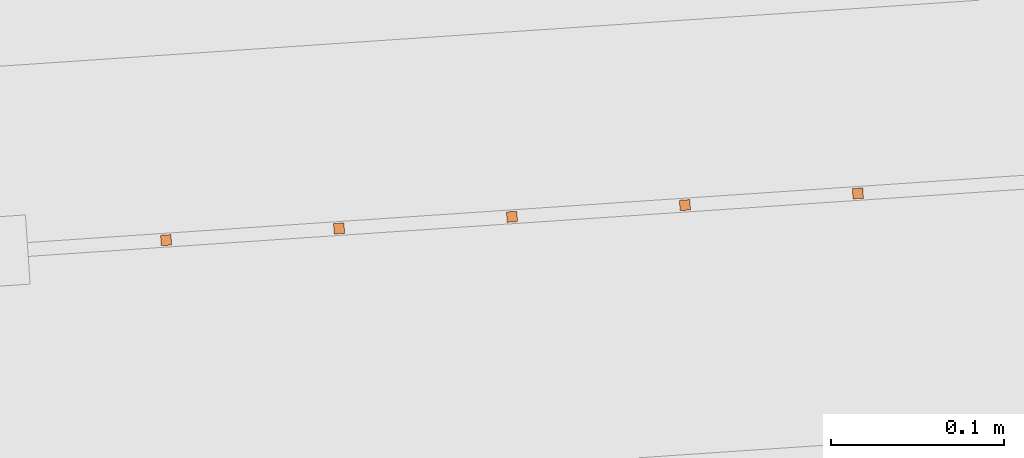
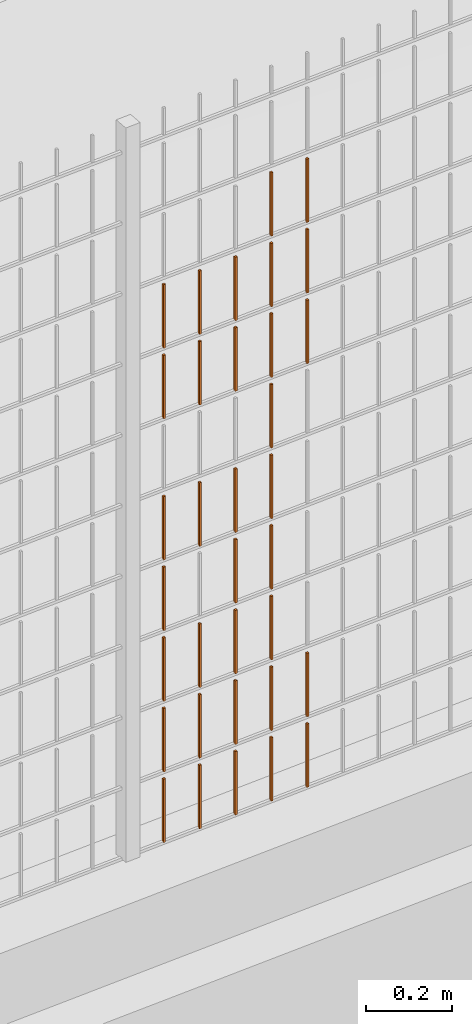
# One storey, part 313 of 1809: 34 proxies, 1 element without a shape of its own.
"""IFC2X3 building model written with IfcOpenShell, lengths in millimetres."""

from ifc_helpers import new_model, entity, si_unit, converted_unit, derived_unit, money_unit, direction, frame, origin_with_axes, place, context, subcontext, project, spatial, faceted_brep, source, transform, mapped, material, type_object, element, aggregate, save


model = new_model("IFC2X3")

# Units and contexts
model_context = context("Model", 3, precision=0.01, world=origin_with_axes(), true_north=direction((0.0, 1.0)))
body_context = subcontext(model_context, "Body", "Model", "MODEL_VIEW")
ifc_project = project(units=[si_unit("LENGTHUNIT", "METRE", prefix="MILLI"), si_unit("AREAUNIT", "SQUARE_METRE"), si_unit("VOLUMEUNIT", "CUBIC_METRE"), converted_unit("PLANEANGLEUNIT", "DEGREE", entity("IfcPlaneAngleMeasure", 0.0174532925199), si_unit("PLANEANGLEUNIT", "RADIAN"), dimensions=[0, 0, 0, 0, 0, 0, 0]), si_unit("SOLIDANGLEUNIT", "STERADIAN"), money_unit("EUR"), converted_unit("TIMEUNIT", "Year", entity("IfcTimeMeasure", 31556926.0), si_unit("TIMEUNIT", "SECOND"), dimensions=[0, 0, 1, 0, 0, 0, 0]), si_unit("MASSUNIT", "GRAM", prefix="KILO"), si_unit("THERMODYNAMICTEMPERATUREUNIT", "DEGREE_CELSIUS"), si_unit("LUMINOUSINTENSITYUNIT", "LUMEN"), si_unit("ENERGYUNIT", "JOULE", prefix="MEGA"), derived_unit("THERMALCONDUCTANCEUNIT", [(si_unit("POWERUNIT", "WATT"), 1), (si_unit("LENGTHUNIT", "METRE"), -1), (si_unit("THERMODYNAMICTEMPERATUREUNIT", "KELVIN"), -1)]), derived_unit("SPECIFICHEATCAPACITYUNIT", [(si_unit("ENERGYUNIT", "JOULE"), 1), (si_unit("MASSUNIT", "GRAM", prefix="KILO"), -1), (si_unit("THERMODYNAMICTEMPERATUREUNIT", "KELVIN"), -1)]), derived_unit("MASSDENSITYUNIT", [(si_unit("MASSUNIT", "GRAM", prefix="KILO"), 1), (si_unit("VOLUMEUNIT", "CUBIC_METRE"), -1)])], contexts=[model_context])

# Site, building, storey
site_placement = place(None, origin_with_axes())
site = spatial("IfcSite", under=ifc_project, at=site_placement, Name="Politse- ja Piirivalveameti ning Päästeameti ühishoone", CompositionType="ELEMENT")
building_placement = place(site_placement, origin_with_axes())
building = spatial("IfcBuilding", under=site, at=building_placement, Name="Politse- ja Piirivalveameti ning Päästeameti ühishoone", CompositionType="ELEMENT")
storey_placement = place(building_placement, origin_with_axes())
storey = spatial("IfcBuildingStorey", under=building, at=storey_placement, Name="Esimene korrus", CompositionType="ELEMENT", Elevation=0.0)

# Proxies
building_element_proxy_type_1 = type_object("IfcBuildingElementProxyType", Name="Railing Type", PredefinedType="NOTDEFINED")
proxy_1_placement = place(storey_placement, frame((89252.001212, -29183.4766571, 203.661247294), z_axis=(0.0, 0.0, 1.0), x_axis=(1.0, 0.0, 0.0)))
proxy_1 = element("IfcBuildingElementProxy", 1, at=proxy_1_placement, inside=storey, type_object=building_element_proxy_type_1, Name="PIIRDEAED")
ifc_material = material(Name="ET-03_Raud")
building_element_proxy_type_2 = type_object("IfcBuildingElementProxyType", Name="IfcBuildingElementProxy", PredefinedType="NOTDEFINED")
shared_shape_1 = source(origin_with_axes(), body_context, "Body", "Brep", [
    faceted_brep([(3.0, 3.0, -0.000752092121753), (-3.0, 3.0, -0.000752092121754), (-3.0, 3.0, 179.99926046), (3.0, 3.0, 179.99926046), (3.0, -3.0, 0.000752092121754), (-3.0, -3.0, 0.000752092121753), (-3.0, -3.0, 180.000764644), (3.0, -3.0, 180.000764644)], [[[0, 1, 2, 3]], [[0, 4, 5, 1]], [[1, 5, 6, 2]], [[3, 2, 6, 7]], [[4, 0, 3, 7]], [[5, 4, 7, 6]]]),
])
proxy_2_placement = place(proxy_1_placement, frame((-39436.8252394, -19961.5834773, 17.3251486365), z_axis=(0.0, 0.0, 1.0), x_axis=(1.0, 0.0, 0.0)))
proxy_2 = element("IfcBuildingElementProxy", 2, at=proxy_2_placement, type_object=building_element_proxy_type_2, material=ifc_material, Name="BALUSTER - 001", context=body_context, shape_type="MappedRepresentation", body=[
    mapped(shared_shape_1, transform((0.0, 0.0, 0.0), x_axis=(-0.0673926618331, 0.997726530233, 0.0), y_axis=(-0.997726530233, -0.0673926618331, 0.0), z_axis=(0.0, 0.0, 1.0))),
])
shared_shape_2 = source(origin_with_axes(), body_context, "Body", "Brep", [
    faceted_brep([(3.0, 3.0, -0.000752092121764), (-3.0, 3.0, -0.000752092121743), (-3.0, 3.0, 179.99926046), (3.0, 3.0, 179.99926046), (3.0, -3.0, 0.000752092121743), (-3.0, -3.0, 0.000752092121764), (-3.0, -3.0, 180.000764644), (3.0, -3.0, 180.000764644)], [[[0, 1, 2, 3]], [[0, 4, 5, 1]], [[1, 5, 6, 2]], [[3, 2, 6, 7]], [[4, 0, 3, 7]], [[5, 4, 7, 6]]]),
])
proxy_3_placement = place(proxy_1_placement, frame((-39536.5978924, -19968.3227435, 17.3000788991), z_axis=(0.0, 0.0, 1.0), x_axis=(1.0, 0.0, 0.0)))
proxy_3 = element("IfcBuildingElementProxy", 3, at=proxy_3_placement, type_object=building_element_proxy_type_2, material=ifc_material, Name="BALUSTER - 001", context=body_context, shape_type="MappedRepresentation", body=[
    mapped(shared_shape_2, transform((0.0, 0.0, 0.0), x_axis=(-0.0673926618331, 0.997726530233, 0.0), y_axis=(-0.997726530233, -0.0673926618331, 0.0), z_axis=(0.0, 0.0, 1.0))),
])
shared_shape_3 = source(origin_with_axes(), body_context, "Body", "Brep", [
    faceted_brep([(3.0, 3.0, -0.000752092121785), (-3.0, 3.0, -0.000752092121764), (-3.0, 3.0, 179.99926046), (3.0, 3.0, 179.99926046), (3.0, -3.0, 0.000752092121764), (-3.0, -3.0, 0.000752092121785), (-3.0, -3.0, 180.000764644), (3.0, -3.0, 180.000764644)], [[[0, 1, 2, 3]], [[0, 4, 5, 1]], [[1, 5, 6, 2]], [[3, 2, 6, 7]], [[4, 0, 3, 7]], [[5, 4, 7, 6]]]),
])
proxy_4_placement = place(proxy_1_placement, frame((-39636.3705454, -19975.0620097, 17.2750091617), z_axis=(0.0, 0.0, 1.0), x_axis=(1.0, 0.0, 0.0)))
proxy_4 = element("IfcBuildingElementProxy", 4, at=proxy_4_placement, type_object=building_element_proxy_type_2, material=ifc_material, Name="BALUSTER - 001", context=body_context, shape_type="MappedRepresentation", body=[
    mapped(shared_shape_3, transform((0.0, 0.0, 0.0), x_axis=(-0.0673926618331, 0.997726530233, 0.0), y_axis=(-0.997726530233, -0.0673926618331, 0.0), z_axis=(0.0, 0.0, 1.0))),
])
shared_shape_4 = source(origin_with_axes(), body_context, "Body", "Brep", [
    faceted_brep([(3.0, 3.0, -0.000752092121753), (-3.0, 3.0, -0.000752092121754), (-3.0, 3.0, 179.99926046), (3.0, 3.0, 179.99926046), (3.0, -3.0, 0.000752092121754), (-3.0, -3.0, 0.000752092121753), (-3.0, -3.0, 180.000764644), (3.0, -3.0, 180.000764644)], [[[0, 1, 2, 3]], [[0, 4, 5, 1]], [[1, 5, 6, 2]], [[3, 2, 6, 7]], [[4, 0, 3, 7]], [[5, 4, 7, 6]]]),
])
proxy_5_placement = place(proxy_1_placement, frame((-39436.8252394, -19961.5834773, 217.325148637), z_axis=(0.0, 0.0, 1.0), x_axis=(1.0, 0.0, 0.0)))
proxy_5 = element("IfcBuildingElementProxy", 5, at=proxy_5_placement, type_object=building_element_proxy_type_2, material=ifc_material, Name="BALUSTER - 001", context=body_context, shape_type="MappedRepresentation", body=[
    mapped(shared_shape_4, transform((0.0, 0.0, 0.0), x_axis=(-0.0673926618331, 0.997726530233, 0.0), y_axis=(-0.997726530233, -0.0673926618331, 0.0), z_axis=(0.0, 0.0, 1.0))),
])
proxy_6_placement = place(proxy_1_placement, frame((-39436.8252394, -19961.5834773, 417.325148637), z_axis=(0.0, 0.0, 1.0), x_axis=(1.0, 0.0, 0.0)))
proxy_6 = element("IfcBuildingElementProxy", 6, at=proxy_6_placement, type_object=building_element_proxy_type_2, material=ifc_material, Name="BALUSTER - 001", context=body_context, shape_type="MappedRepresentation", body=[
    mapped(shared_shape_4, transform((0.0, 0.0, 0.0), x_axis=(-0.0673926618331, 0.997726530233, 0.0), y_axis=(-0.997726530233, -0.0673926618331, 0.0), z_axis=(0.0, 0.0, 1.0))),
])
shared_shape_5 = source(origin_with_axes(), body_context, "Body", "Brep", [
    faceted_brep([(3.0, 3.0, -0.000752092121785), (-3.0, 3.0, -0.000752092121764), (-3.0, 3.0, 179.99926046), (3.0, 3.0, 179.99926046), (3.0, -3.0, 0.000752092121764), (-3.0, -3.0, 0.000752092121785), (-3.0, -3.0, 180.000764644), (3.0, -3.0, 180.000764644)], [[[0, 1, 2, 3]], [[0, 4, 5, 1]], [[1, 5, 6, 2]], [[3, 2, 6, 7]], [[4, 0, 3, 7]], [[5, 4, 7, 6]]]),
])
proxy_7_placement = place(proxy_1_placement, frame((-39636.3705454, -19975.0620097, 217.275009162), z_axis=(0.0, 0.0, 1.0), x_axis=(1.0, 0.0, 0.0)))
proxy_7 = element("IfcBuildingElementProxy", 7, at=proxy_7_placement, type_object=building_element_proxy_type_2, material=ifc_material, Name="BALUSTER - 001", context=body_context, shape_type="MappedRepresentation", body=[
    mapped(shared_shape_5, transform((0.0, 0.0, 0.0), x_axis=(-0.0673926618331, 0.997726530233, 0.0), y_axis=(-0.997726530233, -0.0673926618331, 0.0), z_axis=(0.0, 0.0, 1.0))),
])
proxy_8_placement = place(proxy_1_placement, frame((-39636.3705454, -19975.0620097, 417.275009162), z_axis=(0.0, 0.0, 1.0), x_axis=(1.0, 0.0, 0.0)))
proxy_8 = element("IfcBuildingElementProxy", 8, at=proxy_8_placement, type_object=building_element_proxy_type_2, material=ifc_material, Name="BALUSTER - 001", context=body_context, shape_type="MappedRepresentation", body=[
    mapped(shared_shape_5, transform((0.0, 0.0, 0.0), x_axis=(-0.0673926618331, 0.997726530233, 0.0), y_axis=(-0.997726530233, -0.0673926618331, 0.0), z_axis=(0.0, 0.0, 1.0))),
])
shared_shape_6 = source(origin_with_axes(), body_context, "Body", "Brep", [
    faceted_brep([(3.0, 3.0, -0.000752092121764), (-3.0, 3.0, -0.000752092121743), (-3.0, 3.0, 179.99926046), (3.0, 3.0, 179.99926046), (3.0, -3.0, 0.000752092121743), (-3.0, -3.0, 0.000752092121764), (-3.0, -3.0, 180.000764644), (3.0, -3.0, 180.000764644)], [[[0, 1, 2, 3]], [[0, 4, 5, 1]], [[1, 5, 6, 2]], [[3, 2, 6, 7]], [[4, 0, 3, 7]], [[5, 4, 7, 6]]]),
])
proxy_9_placement = place(proxy_1_placement, frame((-39536.5978924, -19968.3227435, 217.300078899), z_axis=(0.0, 0.0, 1.0), x_axis=(1.0, 0.0, 0.0)))
proxy_9 = element("IfcBuildingElementProxy", 9, at=proxy_9_placement, type_object=building_element_proxy_type_2, material=ifc_material, Name="BALUSTER - 001", context=body_context, shape_type="MappedRepresentation", body=[
    mapped(shared_shape_6, transform((0.0, 0.0, 0.0), x_axis=(-0.0673926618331, 0.997726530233, 0.0), y_axis=(-0.997726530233, -0.0673926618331, 0.0), z_axis=(0.0, 0.0, 1.0))),
])
shared_shape_7 = source(origin_with_axes(), body_context, "Body", "Brep", [
    faceted_brep([(3.0, 3.0, -0.000752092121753), (-3.0, 3.0, -0.000752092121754), (-3.0, 3.0, 179.99926046), (3.0, 3.0, 179.99926046), (3.0, -3.0, 0.000752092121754), (-3.0, -3.0, 0.000752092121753), (-3.0, -3.0, 180.000764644), (3.0, -3.0, 180.000764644)], [[[0, 1, 2, 3]], [[0, 4, 5, 1]], [[1, 5, 6, 2]], [[3, 2, 6, 7]], [[4, 0, 3, 7]], [[5, 4, 7, 6]]]),
])
proxy_10_placement = place(proxy_1_placement, frame((-39436.8252394, -19961.5834773, 817.325148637), z_axis=(0.0, 0.0, 1.0), x_axis=(1.0, 0.0, 0.0)))
proxy_10 = element("IfcBuildingElementProxy", 10, at=proxy_10_placement, type_object=building_element_proxy_type_2, material=ifc_material, Name="BALUSTER - 001", context=body_context, shape_type="MappedRepresentation", body=[
    mapped(shared_shape_7, transform((0.0, 0.0, 0.0), x_axis=(-0.0673926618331, 0.997726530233, 0.0), y_axis=(-0.997726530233, -0.0673926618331, 0.0), z_axis=(0.0, 0.0, 1.0))),
])
shared_shape_8 = source(origin_with_axes(), body_context, "Body", "Brep", [
    faceted_brep([(3.0, 3.0, -0.000752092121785), (-3.0, 3.0, -0.000752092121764), (-3.0, 3.0, 179.99926046), (3.0, 3.0, 179.99926046), (3.0, -3.0, 0.000752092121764), (-3.0, -3.0, 0.000752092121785), (-3.0, -3.0, 180.000764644), (3.0, -3.0, 180.000764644)], [[[0, 1, 2, 3]], [[0, 4, 5, 1]], [[1, 5, 6, 2]], [[3, 2, 6, 7]], [[4, 0, 3, 7]], [[5, 4, 7, 6]]]),
])
proxy_11_placement = place(proxy_1_placement, frame((-39636.3705454, -19975.0620097, 617.275009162), z_axis=(0.0, 0.0, 1.0), x_axis=(1.0, 0.0, 0.0)))
proxy_11 = element("IfcBuildingElementProxy", 11, at=proxy_11_placement, type_object=building_element_proxy_type_2, material=ifc_material, Name="BALUSTER - 001", context=body_context, shape_type="MappedRepresentation", body=[
    mapped(shared_shape_8, transform((0.0, 0.0, 0.0), x_axis=(-0.0673926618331, 0.997726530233, 0.0), y_axis=(-0.997726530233, -0.0673926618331, 0.0), z_axis=(0.0, 0.0, 1.0))),
])
shared_shape_9 = source(origin_with_axes(), body_context, "Body", "Brep", [
    faceted_brep([(3.0, 3.0, -0.000752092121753), (-3.0, 3.0, -0.000752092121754), (-3.0, 3.0, 179.99926046), (3.0, 3.0, 179.99926046), (3.0, -3.0, 0.000752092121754), (-3.0, -3.0, 0.000752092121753), (-3.0, -3.0, 180.000764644), (3.0, -3.0, 180.000764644)], [[[0, 1, 2, 3]], [[0, 4, 5, 1]], [[1, 5, 6, 2]], [[3, 2, 6, 7]], [[4, 0, 3, 7]], [[5, 4, 7, 6]]]),
])
proxy_12_placement = place(proxy_1_placement, frame((-39436.8252394, -19961.5834773, 617.325148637), z_axis=(0.0, 0.0, 1.0), x_axis=(1.0, 0.0, 0.0)))
proxy_12 = element("IfcBuildingElementProxy", 12, at=proxy_12_placement, type_object=building_element_proxy_type_2, material=ifc_material, Name="BALUSTER - 001", context=body_context, shape_type="MappedRepresentation", body=[
    mapped(shared_shape_9, transform((0.0, 0.0, 0.0), x_axis=(-0.0673926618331, 0.997726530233, 0.0), y_axis=(-0.997726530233, -0.0673926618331, 0.0), z_axis=(0.0, 0.0, 1.0))),
])
shared_shape_10 = source(origin_with_axes(), body_context, "Body", "Brep", [
    faceted_brep([(3.0, 3.0, -0.000752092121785), (-3.0, 3.0, -0.000752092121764), (-3.0, 3.0, 179.99926046), (3.0, 3.0, 179.99926046), (3.0, -3.0, 0.000752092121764), (-3.0, -3.0, 0.000752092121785), (-3.0, -3.0, 180.000764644), (3.0, -3.0, 180.000764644)], [[[0, 1, 2, 3]], [[0, 4, 5, 1]], [[1, 5, 6, 2]], [[3, 2, 6, 7]], [[4, 0, 3, 7]], [[5, 4, 7, 6]]]),
])
proxy_13_placement = place(proxy_1_placement, frame((-39636.3705454, -19975.0620097, 817.275009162), z_axis=(0.0, 0.0, 1.0), x_axis=(1.0, 0.0, 0.0)))
proxy_13 = element("IfcBuildingElementProxy", 13, at=proxy_13_placement, type_object=building_element_proxy_type_2, material=ifc_material, Name="BALUSTER - 001", context=body_context, shape_type="MappedRepresentation", body=[
    mapped(shared_shape_10, transform((0.0, 0.0, 0.0), x_axis=(-0.0673926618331, 0.997726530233, 0.0), y_axis=(-0.997726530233, -0.0673926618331, 0.0), z_axis=(0.0, 0.0, 1.0))),
])
proxy_14_placement = place(proxy_1_placement, frame((-39636.3705454, -19975.0620097, 1217.27500916), z_axis=(0.0, 0.0, 1.0), x_axis=(1.0, 0.0, 0.0)))
proxy_14 = element("IfcBuildingElementProxy", 14, at=proxy_14_placement, type_object=building_element_proxy_type_2, material=ifc_material, Name="BALUSTER - 001", context=body_context, shape_type="MappedRepresentation", body=[
    mapped(shared_shape_10, transform((0.0, 0.0, 0.0), x_axis=(-0.0673926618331, 0.997726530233, 0.0), y_axis=(-0.997726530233, -0.0673926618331, 0.0), z_axis=(0.0, 0.0, 1.0))),
])
shared_shape_11 = source(origin_with_axes(), body_context, "Body", "Brep", [
    faceted_brep([(3.0, 3.0, -0.000752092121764), (-3.0, 3.0, -0.000752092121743), (-3.0, 3.0, 179.99926046), (3.0, 3.0, 179.99926046), (3.0, -3.0, 0.000752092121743), (-3.0, -3.0, 0.000752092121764), (-3.0, -3.0, 180.000764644), (3.0, -3.0, 180.000764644)], [[[0, 1, 2, 3]], [[0, 4, 5, 1]], [[1, 5, 6, 2]], [[3, 2, 6, 7]], [[4, 0, 3, 7]], [[5, 4, 7, 6]]]),
])
proxy_15_placement = place(proxy_1_placement, frame((-39536.5978924, -19968.3227435, 817.300078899), z_axis=(0.0, 0.0, 1.0), x_axis=(1.0, 0.0, 0.0)))
proxy_15 = element("IfcBuildingElementProxy", 15, at=proxy_15_placement, type_object=building_element_proxy_type_2, material=ifc_material, Name="BALUSTER - 001", context=body_context, shape_type="MappedRepresentation", body=[
    mapped(shared_shape_11, transform((0.0, 0.0, 0.0), x_axis=(-0.0673926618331, 0.997726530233, 0.0), y_axis=(-0.997726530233, -0.0673926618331, 0.0), z_axis=(0.0, 0.0, 1.0))),
])
proxy_16_placement = place(proxy_1_placement, frame((-39536.5978924, -19968.3227435, 1217.3000789), z_axis=(0.0, 0.0, 1.0), x_axis=(1.0, 0.0, 0.0)))
proxy_16 = element("IfcBuildingElementProxy", 16, at=proxy_16_placement, type_object=building_element_proxy_type_2, material=ifc_material, Name="BALUSTER - 001", context=body_context, shape_type="MappedRepresentation", body=[
    mapped(shared_shape_11, transform((0.0, 0.0, 0.0), x_axis=(-0.0673926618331, 0.997726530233, 0.0), y_axis=(-0.997726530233, -0.0673926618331, 0.0), z_axis=(0.0, 0.0, 1.0))),
])
shared_shape_12 = source(origin_with_axes(), body_context, "Body", "Brep", [
    faceted_brep([(3.0, 3.0, -0.000752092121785), (-3.0, 3.0, -0.000752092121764), (-3.0, 3.0, 179.99926046), (3.0, 3.0, 179.99926046), (3.0, -3.0, 0.000752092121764), (-3.0, -3.0, 0.000752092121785), (-3.0, -3.0, 180.000764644), (3.0, -3.0, 180.000764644)], [[[0, 1, 2, 3]], [[0, 4, 5, 1]], [[1, 5, 6, 2]], [[3, 2, 6, 7]], [[4, 0, 3, 7]], [[5, 4, 7, 6]]]),
])
proxy_17_placement = place(proxy_1_placement, frame((-39636.3705454, -19975.0620097, 1417.27500916), z_axis=(0.0, 0.0, 1.0), x_axis=(1.0, 0.0, 0.0)))
proxy_17 = element("IfcBuildingElementProxy", 17, at=proxy_17_placement, type_object=building_element_proxy_type_2, material=ifc_material, Name="BALUSTER - 001", context=body_context, shape_type="MappedRepresentation", body=[
    mapped(shared_shape_12, transform((0.0, 0.0, 0.0), x_axis=(-0.0673926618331, 0.997726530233, 0.0), y_axis=(-0.997726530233, -0.0673926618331, 0.0), z_axis=(0.0, 0.0, 1.0))),
])
shared_shape_13 = source(origin_with_axes(), body_context, "Body", "Brep", [
    faceted_brep([(3.0, 3.0, -0.000752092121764), (-3.0, 3.0, -0.000752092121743), (-3.0, 3.0, 179.99926046), (3.0, 3.0, 179.99926046), (3.0, -3.0, 0.000752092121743), (-3.0, -3.0, 0.000752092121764), (-3.0, -3.0, 180.000764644), (3.0, -3.0, 180.000764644)], [[[0, 1, 2, 3]], [[0, 4, 5, 1]], [[1, 5, 6, 2]], [[3, 2, 6, 7]], [[4, 0, 3, 7]], [[5, 4, 7, 6]]]),
])
proxy_18_placement = place(proxy_1_placement, frame((-39536.5978924, -19968.3227435, 417.300078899), z_axis=(0.0, 0.0, 1.0), x_axis=(1.0, 0.0, 0.0)))
proxy_18 = element("IfcBuildingElementProxy", 18, at=proxy_18_placement, type_object=building_element_proxy_type_2, material=ifc_material, Name="BALUSTER - 001", context=body_context, shape_type="MappedRepresentation", body=[
    mapped(shared_shape_13, transform((0.0, 0.0, 0.0), x_axis=(-0.0673926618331, 0.997726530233, 0.0), y_axis=(-0.997726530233, -0.0673926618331, 0.0), z_axis=(0.0, 0.0, 1.0))),
])
shared_shape_14 = source(origin_with_axes(), body_context, "Body", "Brep", [
    faceted_brep([(3.0, 3.0, -0.000752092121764), (-3.0, 3.0, -0.000752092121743), (-3.0, 3.0, 179.99926046), (3.0, 3.0, 179.99926046), (3.0, -3.0, 0.000752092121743), (-3.0, -3.0, 0.000752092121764), (-3.0, -3.0, 180.000764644), (3.0, -3.0, 180.000764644)], [[[0, 1, 2, 3]], [[0, 4, 5, 1]], [[1, 5, 6, 2]], [[3, 2, 6, 7]], [[4, 0, 3, 7]], [[5, 4, 7, 6]]]),
])
proxy_19_placement = place(proxy_1_placement, frame((-39536.5978924, -19968.3227435, 1417.3000789), z_axis=(0.0, 0.0, 1.0), x_axis=(1.0, 0.0, 0.0)))
proxy_19 = element("IfcBuildingElementProxy", 19, at=proxy_19_placement, type_object=building_element_proxy_type_2, material=ifc_material, Name="BALUSTER - 001", context=body_context, shape_type="MappedRepresentation", body=[
    mapped(shared_shape_14, transform((0.0, 0.0, 0.0), x_axis=(-0.0673926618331, 0.997726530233, 0.0), y_axis=(-0.997726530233, -0.0673926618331, 0.0), z_axis=(0.0, 0.0, 1.0))),
])
shared_shape_15 = source(origin_with_axes(), body_context, "Body", "Brep", [
    faceted_brep([(3.0, 3.0, -0.000752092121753), (-3.0, 3.0, -0.000752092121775), (-3.0, 3.0, 179.99926046), (3.0, 3.0, 179.99926046), (3.0, -3.0, 0.000752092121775), (-3.0, -3.0, 0.000752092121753), (-3.0, -3.0, 180.000764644), (3.0, -3.0, 180.000764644)], [[[0, 1, 2, 3]], [[0, 4, 5, 1]], [[1, 5, 6, 2]], [[3, 2, 6, 7]], [[4, 0, 3, 7]], [[5, 4, 7, 6]]]),
])
proxy_20_placement = place(proxy_1_placement, frame((-39237.2799333, -19948.104945, 1417.37528811), z_axis=(0.0, 0.0, 1.0), x_axis=(1.0, 0.0, 0.0)))
proxy_20 = element("IfcBuildingElementProxy", 20, at=proxy_20_placement, type_object=building_element_proxy_type_2, material=ifc_material, Name="BALUSTER - 001", context=body_context, shape_type="MappedRepresentation", body=[
    mapped(shared_shape_15, transform((0.0, 0.0, 0.0), x_axis=(-0.0673926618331, 0.997726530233, 0.0), y_axis=(-0.997726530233, -0.0673926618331, 0.0), z_axis=(0.0, 0.0, 1.0))),
])
shared_shape_16 = source(origin_with_axes(), body_context, "Body", "Brep", [
    faceted_brep([(3.0, 3.0, -0.000752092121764), (-3.0, 3.0, -0.000752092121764), (-3.0, 3.0, 179.99926046), (3.0, 3.0, 179.99926046), (3.0, -3.0, 0.000752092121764), (-3.0, -3.0, 0.000752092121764), (-3.0, -3.0, 180.000764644), (3.0, -3.0, 180.000764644)], [[[0, 1, 2, 3]], [[0, 4, 5, 1]], [[1, 5, 6, 2]], [[3, 2, 6, 7]], [[4, 0, 3, 7]], [[5, 4, 7, 6]]]),
])
proxy_21_placement = place(proxy_1_placement, frame((-39337.0525864, -19954.8442111, 617.350218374), z_axis=(0.0, 0.0, 1.0), x_axis=(1.0, 0.0, 0.0)))
proxy_21 = element("IfcBuildingElementProxy", 21, at=proxy_21_placement, type_object=building_element_proxy_type_2, material=ifc_material, Name="BALUSTER - 001", context=body_context, shape_type="MappedRepresentation", body=[
    mapped(shared_shape_16, transform((0.0, 0.0, 0.0), x_axis=(-0.0673926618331, 0.997726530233, 0.0), y_axis=(-0.997726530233, -0.0673926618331, 0.0), z_axis=(0.0, 0.0, 1.0))),
])
shared_shape_17 = source(origin_with_axes(), body_context, "Body", "Brep", [
    faceted_brep([(3.0, 3.0, -0.000752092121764), (-3.0, 3.0, -0.000752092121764), (-3.0, 3.0, 179.99926046), (3.0, 3.0, 179.99926046), (3.0, -3.0, 0.000752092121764), (-3.0, -3.0, 0.000752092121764), (-3.0, -3.0, 180.000764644), (3.0, -3.0, 180.000764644)], [[[0, 1, 2, 3]], [[0, 4, 5, 1]], [[1, 5, 6, 2]], [[3, 2, 6, 7]], [[4, 0, 3, 7]], [[5, 4, 7, 6]]]),
])
proxy_22_placement = place(proxy_1_placement, frame((-39337.0525864, -19954.8442111, 417.350218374), z_axis=(0.0, 0.0, 1.0), x_axis=(1.0, 0.0, 0.0)))
proxy_22 = element("IfcBuildingElementProxy", 22, at=proxy_22_placement, type_object=building_element_proxy_type_2, material=ifc_material, Name="BALUSTER - 001", context=body_context, shape_type="MappedRepresentation", body=[
    mapped(shared_shape_17, transform((0.0, 0.0, 0.0), x_axis=(-0.0673926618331, 0.997726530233, 0.0), y_axis=(-0.997726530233, -0.0673926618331, 0.0), z_axis=(0.0, 0.0, 1.0))),
])
shared_shape_18 = source(origin_with_axes(), body_context, "Body", "Brep", [
    faceted_brep([(3.0, 3.0, -0.000752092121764), (-3.0, 3.0, -0.000752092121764), (-3.0, 3.0, 179.99926046), (3.0, 3.0, 179.99926046), (3.0, -3.0, 0.000752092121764), (-3.0, -3.0, 0.000752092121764), (-3.0, -3.0, 180.000764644), (3.0, -3.0, 180.000764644)], [[[0, 1, 2, 3]], [[0, 4, 5, 1]], [[1, 5, 6, 2]], [[3, 2, 6, 7]], [[4, 0, 3, 7]], [[5, 4, 7, 6]]]),
])
proxy_23_placement = place(proxy_1_placement, frame((-39337.0525864, -19954.8442111, 817.350218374), z_axis=(0.0, 0.0, 1.0), x_axis=(1.0, 0.0, 0.0)))
proxy_23 = element("IfcBuildingElementProxy", 23, at=proxy_23_placement, type_object=building_element_proxy_type_2, material=ifc_material, Name="BALUSTER - 001", context=body_context, shape_type="MappedRepresentation", body=[
    mapped(shared_shape_18, transform((0.0, 0.0, 0.0), x_axis=(-0.0673926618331, 0.997726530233, 0.0), y_axis=(-0.997726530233, -0.0673926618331, 0.0), z_axis=(0.0, 0.0, 1.0))),
])
shared_shape_19 = source(origin_with_axes(), body_context, "Body", "Brep", [
    faceted_brep([(3.0, 3.0, -0.000752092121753), (-3.0, 3.0, -0.000752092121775), (-3.0, 3.0, 179.99926046), (3.0, 3.0, 179.99926046), (3.0, -3.0, 0.000752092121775), (-3.0, -3.0, 0.000752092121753), (-3.0, -3.0, 180.000764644), (3.0, -3.0, 180.000764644)], [[[0, 1, 2, 3]], [[0, 4, 5, 1]], [[1, 5, 6, 2]], [[3, 2, 6, 7]], [[4, 0, 3, 7]], [[5, 4, 7, 6]]]),
])
proxy_24_placement = place(proxy_1_placement, frame((-39237.2799333, -19948.104945, 1617.37528811), z_axis=(0.0, 0.0, 1.0), x_axis=(1.0, 0.0, 0.0)))
proxy_24 = element("IfcBuildingElementProxy", 24, at=proxy_24_placement, type_object=building_element_proxy_type_2, material=ifc_material, Name="BALUSTER - 001", context=body_context, shape_type="MappedRepresentation", body=[
    mapped(shared_shape_19, transform((0.0, 0.0, 0.0), x_axis=(-0.0673926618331, 0.997726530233, 0.0), y_axis=(-0.997726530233, -0.0673926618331, 0.0), z_axis=(0.0, 0.0, 1.0))),
])
shared_shape_20 = source(origin_with_axes(), body_context, "Body", "Brep", [
    faceted_brep([(3.0, 3.0, -0.000752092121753), (-3.0, 3.0, -0.000752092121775), (-3.0, 3.0, 179.99926046), (3.0, 3.0, 179.99926046), (3.0, -3.0, 0.000752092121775), (-3.0, -3.0, 0.000752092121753), (-3.0, -3.0, 180.000764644), (3.0, -3.0, 180.000764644)], [[[0, 1, 2, 3]], [[0, 4, 5, 1]], [[1, 5, 6, 2]], [[3, 2, 6, 7]], [[4, 0, 3, 7]], [[5, 4, 7, 6]]]),
])
proxy_25_placement = place(proxy_1_placement, frame((-39237.2799333, -19948.104945, 1217.37528811), z_axis=(0.0, 0.0, 1.0), x_axis=(1.0, 0.0, 0.0)))
proxy_25 = element("IfcBuildingElementProxy", 25, at=proxy_25_placement, type_object=building_element_proxy_type_2, material=ifc_material, Name="BALUSTER - 001", context=body_context, shape_type="MappedRepresentation", body=[
    mapped(shared_shape_20, transform((0.0, 0.0, 0.0), x_axis=(-0.0673926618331, 0.997726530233, 0.0), y_axis=(-0.997726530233, -0.0673926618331, 0.0), z_axis=(0.0, 0.0, 1.0))),
])
shared_shape_21 = source(origin_with_axes(), body_context, "Body", "Brep", [
    faceted_brep([(3.0, 3.0, -0.000752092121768), (-3.0, 3.0, -0.000752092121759), (-3.00000000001, 2.99999999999, 179.99926046), (2.99999999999, 2.99999999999, 179.99926046), (3.0, -3.0, 0.000752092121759), (-3.0, -3.0, 0.000752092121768), (-3.00000000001, -3.00000000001, 180.000764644), (2.99999999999, -3.00000000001, 180.000764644)], [[[0, 1, 2, 3]], [[0, 4, 5, 1]], [[1, 5, 6, 2]], [[3, 2, 6, 7]], [[4, 0, 3, 7]], [[5, 4, 7, 6]]]),
])
proxy_26_placement = place(proxy_1_placement, frame((-39337.0525864, -19954.8442111, 1017.35021837), z_axis=(0.0, 0.0, 1.0), x_axis=(1.0, 0.0, 0.0)))
proxy_26 = element("IfcBuildingElementProxy", 26, at=proxy_26_placement, type_object=building_element_proxy_type_2, material=ifc_material, Name="BALUSTER - 001", context=body_context, shape_type="MappedRepresentation", body=[
    mapped(shared_shape_21, transform((0.0, 0.0, 0.0), x_axis=(-0.0673926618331, 0.997726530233, 0.0), y_axis=(-0.997726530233, -0.0673926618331, 0.0), z_axis=(0.0, 0.0, 1.0))),
])
shared_shape_22 = source(origin_with_axes(), body_context, "Body", "Brep", [
    faceted_brep([(3.0, 3.0, -0.000752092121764), (-3.0, 3.0, -0.000752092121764), (-3.0, 3.0, 179.99926046), (3.0, 3.0, 179.99926046), (3.0, -3.0, 0.000752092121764), (-3.0, -3.0, 0.000752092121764), (-3.0, -3.0, 180.000764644), (3.0, -3.0, 180.000764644)], [[[0, 1, 2, 3]], [[0, 4, 5, 1]], [[1, 5, 6, 2]], [[3, 2, 6, 7]], [[4, 0, 3, 7]], [[5, 4, 7, 6]]]),
])
proxy_27_placement = place(proxy_1_placement, frame((-39337.0525864, -19954.8442111, 1217.35021837), z_axis=(0.0, 0.0, 1.0), x_axis=(1.0, 0.0, 0.0)))
proxy_27 = element("IfcBuildingElementProxy", 27, at=proxy_27_placement, type_object=building_element_proxy_type_2, material=ifc_material, Name="BALUSTER - 001", context=body_context, shape_type="MappedRepresentation", body=[
    mapped(shared_shape_22, transform((0.0, 0.0, 0.0), x_axis=(-0.0673926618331, 0.997726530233, 0.0), y_axis=(-0.997726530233, -0.0673926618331, 0.0), z_axis=(0.0, 0.0, 1.0))),
])
shared_shape_23 = source(origin_with_axes(), body_context, "Body", "Brep", [
    faceted_brep([(3.0, 3.0, -0.000752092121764), (-3.0, 3.0, -0.000752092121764), (-3.0, 3.0, 179.99926046), (3.0, 3.0, 179.99926046), (3.0, -3.0, 0.000752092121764), (-3.0, -3.0, 0.000752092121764), (-3.0, -3.0, 180.000764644), (3.0, -3.0, 180.000764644)], [[[0, 1, 2, 3]], [[0, 4, 5, 1]], [[1, 5, 6, 2]], [[3, 2, 6, 7]], [[4, 0, 3, 7]], [[5, 4, 7, 6]]]),
])
proxy_28_placement = place(proxy_1_placement, frame((-39337.0525864, -19954.8442111, 17.3502183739), z_axis=(0.0, 0.0, 1.0), x_axis=(1.0, 0.0, 0.0)))
proxy_28 = element("IfcBuildingElementProxy", 28, at=proxy_28_placement, type_object=building_element_proxy_type_2, material=ifc_material, Name="BALUSTER - 001", context=body_context, shape_type="MappedRepresentation", body=[
    mapped(shared_shape_23, transform((0.0, 0.0, 0.0), x_axis=(-0.0673926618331, 0.997726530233, 0.0), y_axis=(-0.997726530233, -0.0673926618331, 0.0), z_axis=(0.0, 0.0, 1.0))),
])
proxy_29_placement = place(proxy_1_placement, frame((-39337.0525864, -19954.8442111, 217.350218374), z_axis=(0.0, 0.0, 1.0), x_axis=(1.0, 0.0, 0.0)))
proxy_29 = element("IfcBuildingElementProxy", 29, at=proxy_29_placement, type_object=building_element_proxy_type_2, material=ifc_material, Name="BALUSTER - 001", context=body_context, shape_type="MappedRepresentation", body=[
    mapped(shared_shape_23, transform((0.0, 0.0, 0.0), x_axis=(-0.0673926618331, 0.997726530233, 0.0), y_axis=(-0.997726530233, -0.0673926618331, 0.0), z_axis=(0.0, 0.0, 1.0))),
])
shared_shape_24 = source(origin_with_axes(), body_context, "Body", "Brep", [
    faceted_brep([(3.0, 3.0, -0.000752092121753), (-3.0, 3.0, -0.000752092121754), (-3.0, 3.0, 179.99926046), (3.0, 3.0, 179.99926046), (3.0, -3.0, 0.000752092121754), (-3.0, -3.0, 0.000752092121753), (-3.0, -3.0, 180.000764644), (3.0, -3.0, 180.000764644)], [[[0, 1, 2, 3]], [[0, 4, 5, 1]], [[1, 5, 6, 2]], [[3, 2, 6, 7]], [[4, 0, 3, 7]], [[5, 4, 7, 6]]]),
])
proxy_30_placement = place(proxy_1_placement, frame((-39436.8252394, -19961.5834773, 1217.32514864), z_axis=(0.0, 0.0, 1.0), x_axis=(1.0, 0.0, 0.0)))
proxy_30 = element("IfcBuildingElementProxy", 30, at=proxy_30_placement, type_object=building_element_proxy_type_2, material=ifc_material, Name="BALUSTER - 001", context=body_context, shape_type="MappedRepresentation", body=[
    mapped(shared_shape_24, transform((0.0, 0.0, 0.0), x_axis=(-0.0673926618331, 0.997726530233, 0.0), y_axis=(-0.997726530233, -0.0673926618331, 0.0), z_axis=(0.0, 0.0, 1.0))),
])
shared_shape_25 = source(origin_with_axes(), body_context, "Body", "Brep", [
    faceted_brep([(3.0, 3.0, -0.000752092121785), (-3.0, 3.0, -0.000752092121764), (-3.0, 3.0, 179.99926046), (3.0, 3.0, 179.99926046), (3.0, -3.0, 0.000752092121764), (-3.0, -3.0, 0.000752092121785), (-3.0, -3.0, 180.000764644), (3.0, -3.0, 180.000764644)], [[[0, 1, 2, 3]], [[0, 4, 5, 1]], [[1, 5, 6, 2]], [[3, 2, 6, 7]], [[4, 0, 3, 7]], [[5, 4, 7, 6]]]),
])
proxy_31_placement = place(proxy_1_placement, frame((-39237.2799333, -19948.104945, 17.3752881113), z_axis=(0.0, 0.0, 1.0), x_axis=(1.0, 0.0, 0.0)))
proxy_31 = element("IfcBuildingElementProxy", 31, at=proxy_31_placement, type_object=building_element_proxy_type_2, material=ifc_material, Name="BALUSTER - 001", context=body_context, shape_type="MappedRepresentation", body=[
    mapped(shared_shape_25, transform((0.0, 0.0, 0.0), x_axis=(-0.0673926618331, 0.997726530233, 0.0), y_axis=(-0.997726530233, -0.0673926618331, 0.0), z_axis=(0.0, 0.0, 1.0))),
])
proxy_32_placement = place(proxy_1_placement, frame((-39237.2799333, -19948.104945, 217.375288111), z_axis=(0.0, 0.0, 1.0), x_axis=(1.0, 0.0, 0.0)))
proxy_32 = element("IfcBuildingElementProxy", 32, at=proxy_32_placement, type_object=building_element_proxy_type_2, material=ifc_material, Name="BALUSTER - 001", context=body_context, shape_type="MappedRepresentation", body=[
    mapped(shared_shape_25, transform((0.0, 0.0, 0.0), x_axis=(-0.0673926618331, 0.997726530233, 0.0), y_axis=(-0.997726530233, -0.0673926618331, 0.0), z_axis=(0.0, 0.0, 1.0))),
])
shared_shape_26 = source(origin_with_axes(), body_context, "Body", "Brep", [
    faceted_brep([(3.0, 3.0, -0.000752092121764), (-3.0, 3.0, -0.000752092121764), (-3.0, 3.0, 179.99926046), (3.0, 3.0, 179.99926046), (3.0, -3.0, 0.000752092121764), (-3.0, -3.0, 0.000752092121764), (-3.0, -3.0, 180.000764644), (3.0, -3.0, 180.000764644)], [[[0, 1, 2, 3]], [[0, 4, 5, 1]], [[1, 5, 6, 2]], [[3, 2, 6, 7]], [[4, 0, 3, 7]], [[5, 4, 7, 6]]]),
])
proxy_33_placement = place(proxy_1_placement, frame((-39337.0525864, -19954.8442111, 1417.35021837), z_axis=(0.0, 0.0, 1.0), x_axis=(1.0, 0.0, 0.0)))
proxy_33 = element("IfcBuildingElementProxy", 33, at=proxy_33_placement, type_object=building_element_proxy_type_2, material=ifc_material, Name="BALUSTER - 001", context=body_context, shape_type="MappedRepresentation", body=[
    mapped(shared_shape_26, transform((0.0, 0.0, 0.0), x_axis=(-0.0673926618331, 0.997726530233, 0.0), y_axis=(-0.997726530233, -0.0673926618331, 0.0), z_axis=(0.0, 0.0, 1.0))),
])
proxy_34_placement = place(proxy_1_placement, frame((-39337.0525864, -19954.8442111, 1617.35021837), z_axis=(0.0, 0.0, 1.0), x_axis=(1.0, 0.0, 0.0)))
proxy_34 = element("IfcBuildingElementProxy", 34, at=proxy_34_placement, type_object=building_element_proxy_type_2, material=ifc_material, Name="BALUSTER - 001", context=body_context, shape_type="MappedRepresentation", body=[
    mapped(shared_shape_26, transform((0.0, 0.0, 0.0), x_axis=(-0.0673926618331, 0.997726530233, 0.0), y_axis=(-0.997726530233, -0.0673926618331, 0.0), z_axis=(0.0, 0.0, 1.0))),
])
shared_shape_27 = source(origin_with_axes(), body_context, "Body", "Brep", [
    faceted_brep([(3.0, 3.0, -0.000752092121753), (-3.0, 3.0, -0.000752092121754), (-3.0, 3.0, 179.99926046), (3.0, 3.0, 179.99926046), (3.0, -3.0, 0.000752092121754), (-3.0, -3.0, 0.000752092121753), (-3.0, -3.0, 180.000764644), (3.0, -3.0, 180.000764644)], [[[0, 1, 2, 3]], [[0, 4, 5, 1]], [[1, 5, 6, 2]], [[3, 2, 6, 7]], [[4, 0, 3, 7]], [[5, 4, 7, 6]]]),
])
proxy_35_placement = place(proxy_1_placement, frame((-39436.8252394, -19961.5834773, 1417.32514864), z_axis=(0.0, 0.0, 1.0), x_axis=(1.0, 0.0, 0.0)))
proxy_35 = element("IfcBuildingElementProxy", 35, at=proxy_35_placement, type_object=building_element_proxy_type_2, material=ifc_material, Name="BALUSTER - 001", context=body_context, shape_type="MappedRepresentation", body=[
    mapped(shared_shape_27, transform((0.0, 0.0, 0.0), x_axis=(-0.0673926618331, 0.997726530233, 0.0), y_axis=(-0.997726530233, -0.0673926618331, 0.0), z_axis=(0.0, 0.0, 1.0))),
])
aggregate(proxy_1, [proxy_31, proxy_28, proxy_2, proxy_3, proxy_4, proxy_32, proxy_29, proxy_5, proxy_9, proxy_7, proxy_22, proxy_6, proxy_18, proxy_8, proxy_21, proxy_12, proxy_11, proxy_23, proxy_10, proxy_15, proxy_13, proxy_26, proxy_25, proxy_27, proxy_30, proxy_16, proxy_14, proxy_20, proxy_33, proxy_35, proxy_19, proxy_17, proxy_24, proxy_34])

save(model, "model.ifc")
